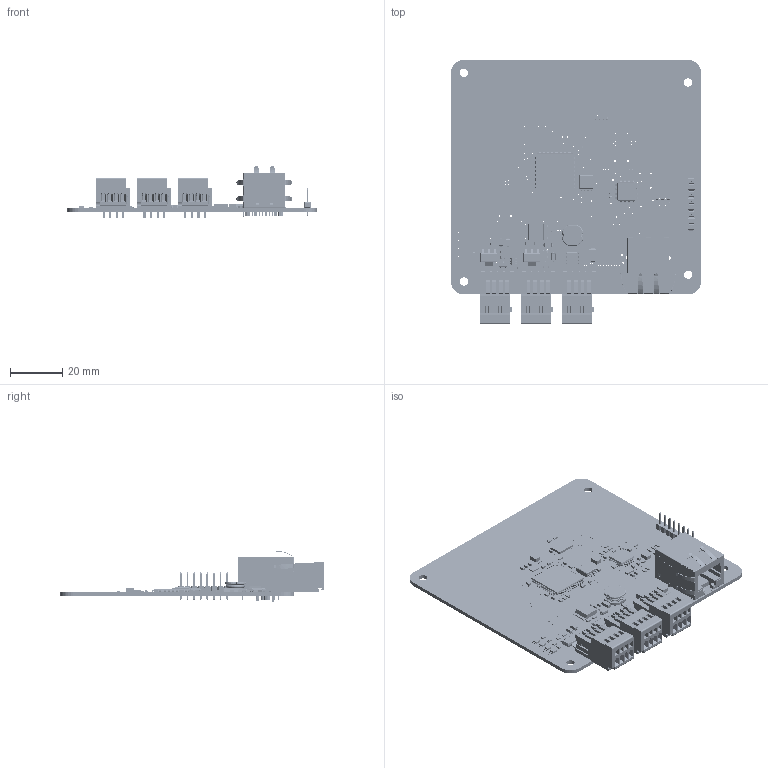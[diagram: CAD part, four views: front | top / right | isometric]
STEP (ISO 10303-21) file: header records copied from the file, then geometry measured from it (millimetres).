
FILE_DESCRIPTION(/* description */ (''),/* implementation_level */ '2;1');
FILE_NAME(/* name */ 'Simulation Model 1.step',/* time_stamp */ '2024-08-23T10:05:06+02:00',/* author */ (''),/* organization */ (''),/* preprocessor_version */ 'ST-DEVELOPER v20',/* originating_system */ 'Autodesk Translation Framework v13.14.0.145',/* authorisation */ '');
FILE_SCHEMA (('AUTOMOTIVE_DESIGN { 1 0 10303 214 3 1 1 }'));
Products named in the file (56): Simulation Model 1; 100086 v2; 118093 v11; Board; Packages; PSOP8; SOIC127P800X200-8N; C0603 (1); 1X08; Model; EXBV8V; Model (1); J0011D21BNL; J0011D21BNL_3D v1; NX3225GD; P-733-364; 100088.Model[V0] v1; QFP50P1600X1600X160-100N_; Model (2); QFP50P900X900X160-49N; NOPB v1; SRN8040; User Library-Inductor SRN8040 Series v1; C0805 (1); C1210; R0603 (1); DO214AC(SMA); BYS10-45-E3_TR3 v1; Body; FilletPin1; FilletPin2; SG7050; DSC1003AL5-025.0000 v1; Body (1); Pins; SOD-123_MINI-SMA; MMSZ4681T1G v1; Body (2); FilletPinL; FilletPinR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
Assembly tree (139 placements, depth 6):
  Simulation Model 1
    100086 v2  x3
    118093 v11
      Board
      Packages
        PSOP8
        SOIC127P800X200-8N
        C0603 (1)  x23
        1X08
          Model
        EXBV8V
          Model (1)
        J0011D21BNL
          J0011D21BNL_3D v1
        NX3225GD
        P-733-364  x3
          100088.Model[V0] v1
        QFP50P1600X1600X160-100N_
          Model (2)
        QFP50P900X900X160-49N
          NOPB v1
        SRN8040
          User Library-Inductor SRN8040 Series v1
        C0805 (1)  x3
        C1210  x6
        R0603 (1)  x38
        DO214AC(SMA)
          BYS10-45-E3_TR3 v1
            Body
            FilletPin1
            FilletPin2
        SG7050
          DSC1003AL5-025.0000 v1
            Body (1)
            Pins
        SOD-123_MINI-SMA  x4
          MMSZ4681T1G v1
            Body (2)
            FilletPinL
            FilletPinR
        C1206  x2
        1206_LED  x4
          APT3216LZGCK v1
        DPACK
          Model (3)
        SOT223  x2
          NSS60600MZ4T1G v1
            Body (3)
            PinsArrayL
            FilletPinR (1)
        SOT23  x2
        TSOP6
          74LVC2G14GV,125 v1
            SOT457 Lower body
            SOT457 Lead  x6
            SOT457 Upper body
Bounding box: 96 x 101.38 x 19.81 mm (x, y, z)
Volume: 22019.3 mm3; surface area: 33708.7 mm2
Topology: 560 solids, 560 shells, 9357 faces, 21796 edges, 13718 vertices
Faces by surface type: plane 5799, cylinder 2851, sphere 632, torus 34, cone 24, bspline 17
Full cylindrical faces by diameter (mm): 0.104 x1, 0.3 x10, 0.438 x190, 0.5 x2, 0.508 x376, 0.6 x1, 0.743 x12, 0.813 x24, 0.819 x8, 0.889 x16, 0.946 x12, 1.016 x24, 1.03 x12, 1.1 x24, 1.2 x12, 1.4 x1, 1.53 x2, 1.6 x4, 3.13 x1, 3.2 x7
Entity records: 165354 total; most frequent: CARTESIAN_POINT 29307, DIRECTION 28051, ORIENTED_EDGE 26424, EDGE_CURVE 13212, LINE 9545, VECTOR 9545, AXIS2_PLACEMENT_3D 9253, VERTEX_POINT 8646
